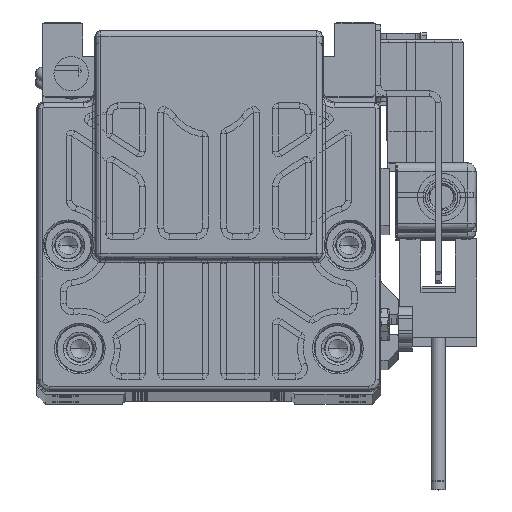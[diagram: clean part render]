
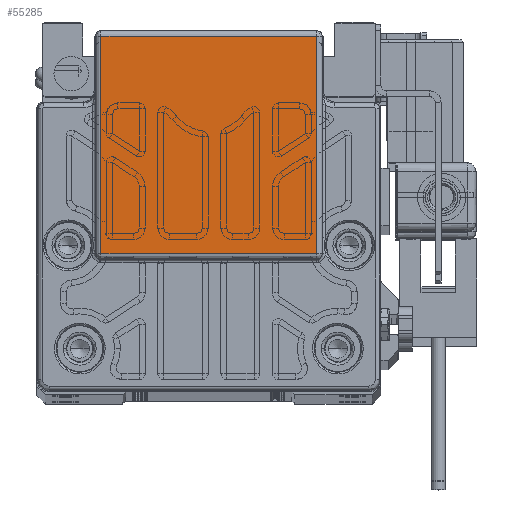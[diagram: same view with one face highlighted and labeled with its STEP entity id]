
A CAD part, top view. The second image highlights one B-rep face of the part: STEP entity #55285.
In plain terms, the highlighted planar face has unit normal (0, 0, 1) as drawn and (0, 0, -1) by its records, which use the part's own axes.
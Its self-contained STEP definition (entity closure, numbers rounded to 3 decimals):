
#935 = CARTESIAN_POINT ( 'NONE',  ( -18.808, 24.518, -143. ) ) ;
#4155 = ORIENTED_EDGE ( 'NONE', *, *, #42269, .F. ) ;
#4988 = LINE ( 'NONE', #25837, #69275 ) ;
#6999 = EDGE_CURVE ( 'NONE', #8057, #85039, #77654, .T. ) ;
#7488 = DIRECTION ( 'NONE',  ( 0., 1., 0. ) ) ;
#8057 = VERTEX_POINT ( 'NONE', #60501 ) ;
#9247 = CARTESIAN_POINT ( 'NONE',  ( 18.808, 24.518, -143. ) ) ;
#17980 = EDGE_LOOP ( 'NONE', ( #30293, #4155, #89543, #36451 ) ) ;
#18897 = CARTESIAN_POINT ( 'NONE',  ( 19., 24.5, -143. ) ) ;
#19793 = FACE_OUTER_BOUND ( 'NONE', #17980, .T. ) ;
#22668 = LINE ( 'NONE', #72501, #47309 ) ;
#25837 = CARTESIAN_POINT ( 'NONE',  ( -18.808, 31., -143. ) ) ;
#28868 = AXIS2_PLACEMENT_3D ( 'NONE', #18897, #66940, #67833 ) ;
#30293 = ORIENTED_EDGE ( 'NONE', *, *, #73172, .F. ) ;
#36451 = ORIENTED_EDGE ( 'NONE', *, *, #6999, .T. ) ;
#41500 = LINE ( 'NONE', #68680, #43994 ) ;
#42269 = EDGE_CURVE ( 'NONE', #53086, #56844, #22668, .T. ) ;
#42725 = CARTESIAN_POINT ( 'NONE',  ( 18.808, 62.447, -143. ) ) ;
#43756 = VECTOR ( 'NONE', #70409, 1000. ) ;
#43994 = VECTOR ( 'NONE', #7488, 1000. ) ;
#45693 = PLANE ( 'NONE',  #28868 ) ;
#47309 = VECTOR ( 'NONE', #77947, 1000. ) ;
#49590 = CARTESIAN_POINT ( 'NONE',  ( 19., 62.447, -143. ) ) ;
#53086 = VERTEX_POINT ( 'NONE', #935 ) ;
#55285 = ADVANCED_FACE ( 'NONE', ( #19793 ), #45693, .T. ) ;
#56386 = EDGE_CURVE ( 'NONE', #8057, #53086, #4988, .T. ) ;
#56844 = VERTEX_POINT ( 'NONE', #9247 ) ;
#58522 = DIRECTION ( 'NONE',  ( 0., -1., 0. ) ) ;
#60501 = CARTESIAN_POINT ( 'NONE',  ( -18.808, 62.447, -143. ) ) ;
#66940 = DIRECTION ( 'NONE',  ( 0., 0., -1. ) ) ;
#67833 = DIRECTION ( 'NONE',  ( 0., 1., 0. ) ) ;
#68680 = CARTESIAN_POINT ( 'NONE',  ( 18.808, 24.5, -143. ) ) ;
#69275 = VECTOR ( 'NONE', #58522, 1000. ) ;
#70409 = DIRECTION ( 'NONE',  ( 1., 0., 0. ) ) ;
#72501 = CARTESIAN_POINT ( 'NONE',  ( 19., 24.518, -143. ) ) ;
#73172 = EDGE_CURVE ( 'NONE', #56844, #85039, #41500, .T. ) ;
#77654 = LINE ( 'NONE', #49590, #43756 ) ;
#77947 = DIRECTION ( 'NONE',  ( 1., 0., 0. ) ) ;
#85039 = VERTEX_POINT ( 'NONE', #42725 ) ;
#89543 = ORIENTED_EDGE ( 'NONE', *, *, #56386, .F. ) ;
